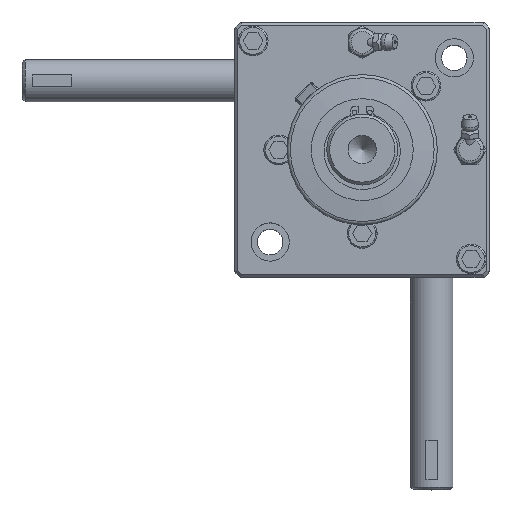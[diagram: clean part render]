
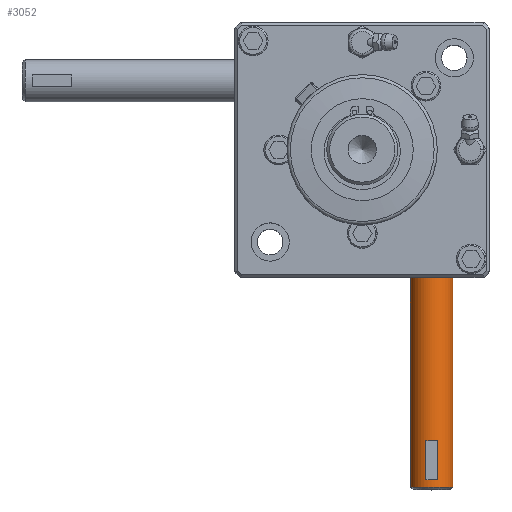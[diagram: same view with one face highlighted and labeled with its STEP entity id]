
A CAD part, top view. The second image highlights one B-rep face of the part: STEP entity #3052.
In plain terms, the highlighted cylindrical face has radius 7.5 mm (diameter 15 mm), a full revolution.
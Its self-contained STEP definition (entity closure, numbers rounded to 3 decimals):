
#3052=ADVANCED_FACE('',(#6405,#6406,#6407,#6408),#6409,.T.);
#6405=FACE_OUTER_BOUND('',#11932,.T.);
#6406=FACE_OUTER_BOUND('',#11933,.T.);
#6407=FACE_BOUND('',#11934,.T.);
#6408=FACE_BOUND('',#11935,.T.);
#6409=CYLINDRICAL_SURFACE('',#11936,7.5);
#11932=EDGE_LOOP('',(#22168));
#11933=EDGE_LOOP('',(#22169));
#11934=EDGE_LOOP('',(#22170,#22171,#22172,#22173));
#11935=EDGE_LOOP('',(#22174,#22175,#22176,#22177));
#11936=AXIS2_PLACEMENT_3D('',#22178,#22179,#22180);
#22168=ORIENTED_EDGE('',*,*,#40839,.F.);
#22169=ORIENTED_EDGE('',*,*,#40840,.T.);
#22170=ORIENTED_EDGE('',*,*,#40841,.F.);
#22171=ORIENTED_EDGE('',*,*,#40842,.F.);
#22172=ORIENTED_EDGE('',*,*,#40843,.T.);
#22173=ORIENTED_EDGE('',*,*,#40844,.T.);
#22174=ORIENTED_EDGE('',*,*,#40845,.F.);
#22175=ORIENTED_EDGE('',*,*,#40846,.F.);
#22176=ORIENTED_EDGE('',*,*,#40847,.T.);
#22177=ORIENTED_EDGE('',*,*,#40848,.T.);
#22178=CARTESIAN_POINT('',(0.0,0.0,0.0));
#22179=DIRECTION('',(1.0,-0.0,0.));
#22180=DIRECTION('',(0.0,1.0,0.0));
#40839=EDGE_CURVE('',#48771,#48771,#48772,.T.);
#40840=EDGE_CURVE('',#48773,#48773,#48774,.T.);
#40841=EDGE_CURVE('',#48775,#48776,#48777,.T.);
#40842=EDGE_CURVE('',#48778,#48775,#48779,.F.);
#40843=EDGE_CURVE('',#48778,#48780,#48781,.T.);
#40844=EDGE_CURVE('',#48780,#48776,#48782,.F.);
#40845=EDGE_CURVE('',#48783,#48784,#48785,.T.);
#40846=EDGE_CURVE('',#48786,#48783,#48787,.F.);
#40847=EDGE_CURVE('',#48786,#48788,#48789,.T.);
#40848=EDGE_CURVE('',#48788,#48784,#48790,.F.);
#48771=VERTEX_POINT('',#62883);
#48772=CIRCLE('',#62884,7.5);
#48773=VERTEX_POINT('',#62885);
#48774=CIRCLE('',#62886,7.5);
#48775=VERTEX_POINT('',#62887);
#48776=VERTEX_POINT('',#62888);
#48777=LINE('',#62889,#62890);
#48778=VERTEX_POINT('',#62891);
#48779=B_SPLINE_CURVE_WITH_KNOTS('',3,(#62892,#62893,#62894,#62895,#62896,#62897,#62898,#62899,#62900,#62901),.UNSPECIFIED.,.F.,.F.,(4,2,2,2,4),(0.027,0.028,0.029,0.03,0.031),.UNSPECIFIED.);
#48780=VERTEX_POINT('',#62902);
#48781=LINE('',#62903,#62904);
#48782=B_SPLINE_CURVE_WITH_KNOTS('',3,(#62905,#62906,#62907,#62908,#62909,#62910,#62911,#62912,#62913,#62914,#62915,#62916),.UNSPECIFIED.,.F.,.F.,(4,2,2,2,2,4),(0.036,0.037,0.038,0.039,0.04,0.04),.UNSPECIFIED.);
#48783=VERTEX_POINT('',#62917);
#48784=VERTEX_POINT('',#62918);
#48785=LINE('',#62919,#62920);
#48786=VERTEX_POINT('',#62921);
#48787=B_SPLINE_CURVE_WITH_KNOTS('',3,(#62922,#62923,#62924,#62925,#62926,#62927,#62928,#62929,#62930,#62931),.UNSPECIFIED.,.F.,.F.,(4,2,2,2,4),(0.027,0.028,0.029,0.03,0.031),.UNSPECIFIED.);
#48788=VERTEX_POINT('',#62932);
#48789=LINE('',#62933,#62934);
#48790=B_SPLINE_CURVE_WITH_KNOTS('',3,(#62935,#62936,#62937,#62938,#62939,#62940,#62941,#62942,#62943,#62944,#62945,#62946),.UNSPECIFIED.,.F.,.F.,(4,2,2,2,2,4),(0.036,0.037,0.038,0.039,0.04,0.04),.UNSPECIFIED.);
#62883=CARTESIAN_POINT('',(59.0,7.5,0.));
#62884=AXIS2_PLACEMENT_3D('',#85635,#85636,#85637);
#62885=CARTESIAN_POINT('',(-59.0,7.5,0.));
#62886=AXIS2_PLACEMENT_3D('',#85638,#85639,#85640);
#62887=CARTESIAN_POINT('',(55.04,2.0,7.228));
#62888=CARTESIAN_POINT('',(43.96,2.0,7.228));
#62889=CARTESIAN_POINT('',(49.5,2.0,7.228));
#62890=VECTOR('',#85641,1.0);
#62891=CARTESIAN_POINT('',(55.04,-2.0,7.228));
#62892=CARTESIAN_POINT('',(55.04,2.,7.228));
#62893=CARTESIAN_POINT('',(55.131,1.684,7.316));
#62894=CARTESIAN_POINT('',(55.199,1.352,7.385));
#62895=CARTESIAN_POINT('',(55.288,0.68,7.477));
#62896=CARTESIAN_POINT('',(55.309,0.341,7.5));
#62897=CARTESIAN_POINT('',(55.309,-0.341,7.5));
#62898=CARTESIAN_POINT('',(55.287,-0.687,7.476));
#62899=CARTESIAN_POINT('',(55.198,-1.356,7.384));
#62900=CARTESIAN_POINT('',(55.131,-1.682,7.316));
#62901=CARTESIAN_POINT('',(55.04,-2.,7.228));
#62902=CARTESIAN_POINT('',(43.96,-2.0,7.228));
#62903=CARTESIAN_POINT('',(49.5,-2.0,7.228));
#62904=VECTOR('',#85642,1.0);
#62905=CARTESIAN_POINT('',(43.96,2.,7.228));
#62906=CARTESIAN_POINT('',(43.868,1.681,7.317));
#62907=CARTESIAN_POINT('',(43.801,1.351,7.385));
#62908=CARTESIAN_POINT('',(43.713,0.684,7.476));
#62909=CARTESIAN_POINT('',(43.691,0.345,7.5));
#62910=CARTESIAN_POINT('',(43.691,-0.344,7.5));
#62911=CARTESIAN_POINT('',(43.713,-0.683,7.476));
#62912=CARTESIAN_POINT('',(43.779,-1.184,7.408));
#62913=CARTESIAN_POINT('',(43.807,-1.349,7.38));
#62914=CARTESIAN_POINT('',(43.874,-1.678,7.312));
#62915=CARTESIAN_POINT('',(43.914,-1.841,7.272));
#62916=CARTESIAN_POINT('',(43.96,-2.,7.228));
#62917=CARTESIAN_POINT('',(-43.96,2.0,7.228));
#62918=CARTESIAN_POINT('',(-55.04,2.0,7.228));
#62919=CARTESIAN_POINT('',(-49.5,2.0,7.228));
#62920=VECTOR('',#85643,1.0);
#62921=CARTESIAN_POINT('',(-43.96,-2.0,7.228));
#62922=CARTESIAN_POINT('',(-43.96,2.,7.228));
#62923=CARTESIAN_POINT('',(-43.869,1.684,7.316));
#62924=CARTESIAN_POINT('',(-43.801,1.352,7.385));
#62925=CARTESIAN_POINT('',(-43.712,0.68,7.477));
#62926=CARTESIAN_POINT('',(-43.691,0.341,7.5));
#62927=CARTESIAN_POINT('',(-43.691,-0.341,7.5));
#62928=CARTESIAN_POINT('',(-43.713,-0.687,7.476));
#62929=CARTESIAN_POINT('',(-43.802,-1.356,7.384));
#62930=CARTESIAN_POINT('',(-43.869,-1.682,7.316));
#62931=CARTESIAN_POINT('',(-43.96,-2.,7.228));
#62932=CARTESIAN_POINT('',(-55.04,-2.0,7.228));
#62933=CARTESIAN_POINT('',(-49.5,-2.0,7.228));
#62934=VECTOR('',#85644,1.0);
#62935=CARTESIAN_POINT('',(-55.04,2.,7.228));
#62936=CARTESIAN_POINT('',(-55.132,1.681,7.317));
#62937=CARTESIAN_POINT('',(-55.199,1.351,7.385));
#62938=CARTESIAN_POINT('',(-55.287,0.684,7.476));
#62939=CARTESIAN_POINT('',(-55.309,0.345,7.5));
#62940=CARTESIAN_POINT('',(-55.309,-0.344,7.5));
#62941=CARTESIAN_POINT('',(-55.287,-0.683,7.476));
#62942=CARTESIAN_POINT('',(-55.221,-1.184,7.408));
#62943=CARTESIAN_POINT('',(-55.193,-1.349,7.38));
#62944=CARTESIAN_POINT('',(-55.126,-1.678,7.312));
#62945=CARTESIAN_POINT('',(-55.086,-1.841,7.272));
#62946=CARTESIAN_POINT('',(-55.04,-2.,7.228));
#85635=CARTESIAN_POINT('',(59.0,0.,0.));
#85636=DIRECTION('',(1.0,0.,0.));
#85637=DIRECTION('',(0.,1.0,0.));
#85638=CARTESIAN_POINT('',(-59.0,0.0,0.));
#85639=DIRECTION('',(1.0,-0.0,0.));
#85640=DIRECTION('',(0.0,1.0,0.0));
#85641=DIRECTION('',(-1.0,0.0,0.));
#85642=DIRECTION('',(-1.0,0.0,0.));
#85643=DIRECTION('',(-1.0,0.0,0.));
#85644=DIRECTION('',(-1.0,0.0,0.));
